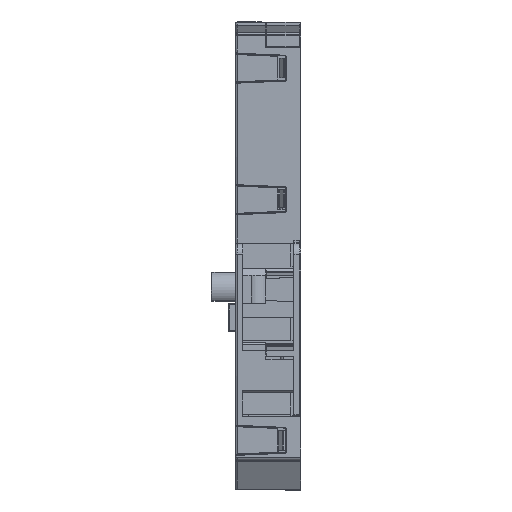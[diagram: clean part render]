
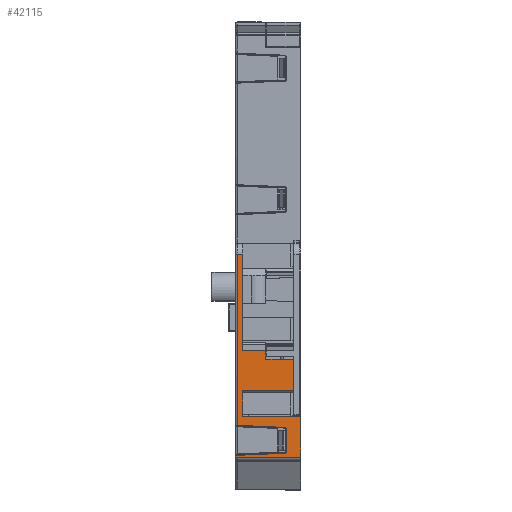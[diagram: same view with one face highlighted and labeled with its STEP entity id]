
A CAD part, front view. The second image highlights one B-rep face of the part: STEP entity #42115.
In plain terms, the highlighted planar face has unit normal (0, -1, 0) as drawn and (-1, 0, 0) by its records, which use the part's own axes.
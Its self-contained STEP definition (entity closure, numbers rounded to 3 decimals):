
#6 = CARTESIAN_POINT ( 'NONE',  ( -40.25, 10.5, 1. ) ) ;
#139 = DIRECTION ( 'NONE',  ( -1., 0., 0. ) ) ;
#368 = CARTESIAN_POINT ( 'NONE',  ( -40.25, 5.446, 7. ) ) ;
#451 = CARTESIAN_POINT ( 'NONE',  ( -40.25, 33.7, 9.3 ) ) ;
#786 = VECTOR ( 'NONE', #46809, 1000. ) ;
#1819 = VERTEX_POINT ( 'NONE', #36128 ) ;
#1921 = VECTOR ( 'NONE', #41950, 1000. ) ;
#2365 = EDGE_CURVE ( 'NONE', #6902, #42385, #11661, .T. ) ;
#3114 = LINE ( 'NONE', #4069, #22433 ) ;
#3443 = CARTESIAN_POINT ( 'NONE',  ( -40.25, 33.7, 9.3 ) ) ;
#3708 = EDGE_CURVE ( 'NONE', #23423, #39307, #10185, .T. ) ;
#4069 = CARTESIAN_POINT ( 'NONE',  ( -40.25, 19.9, 1. ) ) ;
#4418 = DIRECTION ( 'NONE',  ( 0., 0., 1. ) ) ;
#5028 = CARTESIAN_POINT ( 'NONE',  ( -40.25, 33.7, 0.2 ) ) ;
#5709 = EDGE_CURVE ( 'NONE', #25714, #41838, #24201, .T. ) ;
#6028 = CARTESIAN_POINT ( 'NONE',  ( -40.25, 9.242, 0.2 ) ) ;
#6195 = CARTESIAN_POINT ( 'NONE',  ( -40.25, 33.7, 1. ) ) ;
#6529 = ORIENTED_EDGE ( 'NONE', *, *, #11216, .F. ) ;
#6902 = VERTEX_POINT ( 'NONE', #9757 ) ;
#6978 = ORIENTED_EDGE ( 'NONE', *, *, #9014, .F. ) ;
#7106 = ORIENTED_EDGE ( 'NONE', *, *, #18189, .T. ) ;
#7372 = EDGE_CURVE ( 'NONE', #42385, #10054, #33088, .T. ) ;
#8011 = ORIENTED_EDGE ( 'NONE', *, *, #8384, .F. ) ;
#8384 = EDGE_CURVE ( 'NONE', #10054, #37216, #32667, .T. ) ;
#8862 = ORIENTED_EDGE ( 'NONE', *, *, #20882, .F. ) ;
#8902 = VECTOR ( 'NONE', #43666, 1000. ) ;
#8918 = CIRCLE ( 'NONE', #21250, 0.2 ) ;
#9004 = EDGE_CURVE ( 'NONE', #45333, #46824, #31125, .T. ) ;
#9014 = EDGE_CURVE ( 'NONE', #28996, #41838, #15817, .T. ) ;
#9229 = CARTESIAN_POINT ( 'NONE',  ( -40.25, 0., 1. ) ) ;
#9747 = CARTESIAN_POINT ( 'NONE',  ( -40.25, 8.901, 8.252 ) ) ;
#9757 = CARTESIAN_POINT ( 'NONE',  ( -40.25, 14.2, 1. ) ) ;
#9917 = CARTESIAN_POINT ( 'NONE',  ( -40.25, 8.754, 7.2 ) ) ;
#10054 = VERTEX_POINT ( 'NONE', #27269 ) ;
#10096 = VERTEX_POINT ( 'NONE', #16422 ) ;
#10185 = LINE ( 'NONE', #35773, #47598 ) ;
#10648 = LINE ( 'NONE', #14031, #11261 ) ;
#10652 = VERTEX_POINT ( 'NONE', #29355 ) ;
#11216 = EDGE_CURVE ( 'NONE', #23423, #1819, #10648, .T. ) ;
#11261 = VECTOR ( 'NONE', #14512, 1000. ) ;
#11565 = VECTOR ( 'NONE', #41751, 1000. ) ;
#11661 = LINE ( 'NONE', #9229, #25134 ) ;
#12288 = DIRECTION ( 'NONE',  ( 1., 0., 0. ) ) ;
#12508 = CARTESIAN_POINT ( 'NONE',  ( -40.25, 5.246, 7.008 ) ) ;
#12791 = CARTESIAN_POINT ( 'NONE',  ( -40.25, 35.2, 8.3 ) ) ;
#13517 = EDGE_CURVE ( 'NONE', #10096, #17910, #16872, .T. ) ;
#13854 = CARTESIAN_POINT ( 'NONE',  ( -40.25, 4.7, 0.2 ) ) ;
#14031 = CARTESIAN_POINT ( 'NONE',  ( -40.25, 0., 1. ) ) ;
#14237 = DIRECTION ( 'NONE',  ( 0., 0., 1. ) ) ;
#14512 = DIRECTION ( 'NONE',  ( 0., -1., 0. ) ) ;
#14885 = DIRECTION ( 'NONE',  ( 0., 0., -1. ) ) ;
#15220 = CARTESIAN_POINT ( 'NONE',  ( -40.25, 33.7, 7.2 ) ) ;
#15817 = CIRCLE ( 'NONE', #39740, 0.2 ) ;
#15931 = LINE ( 'NONE', #15220, #11565 ) ;
#16422 = CARTESIAN_POINT ( 'NONE',  ( -40.25, 4.958, 0.2 ) ) ;
#16456 = EDGE_LOOP ( 'NONE', ( #46164, #7106, #38927, #8862, #17825, #30200, #6529, #40473, #46635, #18911, #6978, #31439, #27316, #31014, #29549, #37860, #8011, #24953 ) ) ;
#16539 = VECTOR ( 'NONE', #40175, 1000. ) ;
#16872 = LINE ( 'NONE', #22720, #38400 ) ;
#17456 = EDGE_CURVE ( 'NONE', #28996, #34481, #15931, .T. ) ;
#17825 = ORIENTED_EDGE ( 'NONE', *, *, #33986, .F. ) ;
#17910 = VERTEX_POINT ( 'NONE', #13854 ) ;
#18189 = EDGE_CURVE ( 'NONE', #6902, #46824, #37502, .T. ) ;
#18324 = DIRECTION ( 'NONE',  ( 0., 0., -1. ) ) ;
#18911 = ORIENTED_EDGE ( 'NONE', *, *, #5709, .T. ) ;
#19111 = DIRECTION ( 'NONE',  ( 0., -1., 0. ) ) ;
#19539 = DIRECTION ( 'NONE',  ( 0., 0., -1. ) ) ;
#20375 = CARTESIAN_POINT ( 'NONE',  ( -40.25, 4.7, 9.3 ) ) ;
#20882 = EDGE_CURVE ( 'NONE', #35664, #45333, #44854, .T. ) ;
#21098 = EDGE_CURVE ( 'NONE', #35372, #34481, #8918, .T. ) ;
#21250 = AXIS2_PLACEMENT_3D ( 'NONE', #368, #139, #14885 ) ;
#22433 = VECTOR ( 'NONE', #14237, 1000. ) ;
#22720 = CARTESIAN_POINT ( 'NONE',  ( -40.25, 33.7, 0.2 ) ) ;
#23423 = VERTEX_POINT ( 'NONE', #6195 ) ;
#24010 = LINE ( 'NONE', #46229, #43314 ) ;
#24077 = EDGE_CURVE ( 'NONE', #39307, #25714, #29661, .T. ) ;
#24201 = LINE ( 'NONE', #9747, #34307 ) ;
#24585 = LINE ( 'NONE', #35727, #786 ) ;
#24953 = ORIENTED_EDGE ( 'NONE', *, *, #7372, .F. ) ;
#25134 = VECTOR ( 'NONE', #38689, 1000. ) ;
#25362 = DIRECTION ( 'NONE',  ( 0., 0., -1. ) ) ;
#25606 = EDGE_CURVE ( 'NONE', #37216, #17910, #27723, .T. ) ;
#25714 = VERTEX_POINT ( 'NONE', #6028 ) ;
#26824 = CARTESIAN_POINT ( 'NONE',  ( -40.25, 8.954, 7.008 ) ) ;
#27215 = CARTESIAN_POINT ( 'NONE',  ( -40.25, 18.7, 4.3 ) ) ;
#27269 = CARTESIAN_POINT ( 'NONE',  ( -40.25, 10.5, 9.3 ) ) ;
#27316 = ORIENTED_EDGE ( 'NONE', *, *, #21098, .F. ) ;
#27723 = LINE ( 'NONE', #45603, #46874 ) ;
#28183 = CARTESIAN_POINT ( 'NONE',  ( -40.25, 33.7, 0.2 ) ) ;
#28310 = DIRECTION ( 'NONE',  ( 0., -0.042, 0.999 ) ) ;
#28561 = CARTESIAN_POINT ( 'NONE',  ( -40.25, 14.2, 8.3 ) ) ;
#28679 = DIRECTION ( 'NONE',  ( -1., 0., 0. ) ) ;
#28996 = VERTEX_POINT ( 'NONE', #9917 ) ;
#29355 = CARTESIAN_POINT ( 'NONE',  ( -40.25, 19.9, 4.3 ) ) ;
#29440 = DIRECTION ( 'NONE',  ( 0., 0., 1. ) ) ;
#29549 = ORIENTED_EDGE ( 'NONE', *, *, #13517, .T. ) ;
#29661 = LINE ( 'NONE', #28183, #41382 ) ;
#30200 = ORIENTED_EDGE ( 'NONE', *, *, #35164, .F. ) ;
#30349 = VECTOR ( 'NONE', #29440, 1000. ) ;
#30469 = CARTESIAN_POINT ( 'NONE',  ( -40.25, 14.2, 9.3 ) ) ;
#31014 = ORIENTED_EDGE ( 'NONE', *, *, #35873, .T. ) ;
#31125 = LINE ( 'NONE', #12791, #8902 ) ;
#31439 = ORIENTED_EDGE ( 'NONE', *, *, #17456, .T. ) ;
#32667 = LINE ( 'NONE', #3443, #16539 ) ;
#33088 = LINE ( 'NONE', #6, #30349 ) ;
#33536 = PLANE ( 'NONE',  #36702 ) ;
#33986 = EDGE_CURVE ( 'NONE', #10652, #35664, #24585, .T. ) ;
#34259 = DIRECTION ( 'NONE',  ( 0., 1., 0. ) ) ;
#34307 = VECTOR ( 'NONE', #28310, 1000. ) ;
#34481 = VERTEX_POINT ( 'NONE', #44084 ) ;
#35164 = EDGE_CURVE ( 'NONE', #1819, #10652, #3114, .T. ) ;
#35372 = VERTEX_POINT ( 'NONE', #12508 ) ;
#35664 = VERTEX_POINT ( 'NONE', #37828 ) ;
#35727 = CARTESIAN_POINT ( 'NONE',  ( -40.25, 19.9, 4.3 ) ) ;
#35773 = CARTESIAN_POINT ( 'NONE',  ( -40.25, 33.7, 9.3 ) ) ;
#35873 = EDGE_CURVE ( 'NONE', #35372, #10096, #24010, .T. ) ;
#36128 = CARTESIAN_POINT ( 'NONE',  ( -40.25, 19.9, 1. ) ) ;
#36702 = AXIS2_PLACEMENT_3D ( 'NONE', #451, #12288, #34259 ) ;
#37042 = VECTOR ( 'NONE', #4418, 1000. ) ;
#37115 = CARTESIAN_POINT ( 'NONE',  ( -40.25, 10.5, 1. ) ) ;
#37174 = FACE_OUTER_BOUND ( 'NONE', #16456, .T. ) ;
#37216 = VERTEX_POINT ( 'NONE', #20375 ) ;
#37502 = LINE ( 'NONE', #30469, #37042 ) ;
#37828 = CARTESIAN_POINT ( 'NONE',  ( -40.25, 18.7, 4.3 ) ) ;
#37860 = ORIENTED_EDGE ( 'NONE', *, *, #25606, .F. ) ;
#38400 = VECTOR ( 'NONE', #19111, 1000. ) ;
#38689 = DIRECTION ( 'NONE',  ( 0., -1., 0. ) ) ;
#38772 = DIRECTION ( 'NONE',  ( 0., -0.042, -0.999 ) ) ;
#38845 = DIRECTION ( 'NONE',  ( 0., -1., 0. ) ) ;
#38927 = ORIENTED_EDGE ( 'NONE', *, *, #9004, .F. ) ;
#39307 = VERTEX_POINT ( 'NONE', #5028 ) ;
#39740 = AXIS2_PLACEMENT_3D ( 'NONE', #40061, #28679, #18324 ) ;
#40061 = CARTESIAN_POINT ( 'NONE',  ( -40.25, 8.754, 7. ) ) ;
#40175 = DIRECTION ( 'NONE',  ( 0., -1., 0. ) ) ;
#40473 = ORIENTED_EDGE ( 'NONE', *, *, #3708, .T. ) ;
#41382 = VECTOR ( 'NONE', #38845, 1000. ) ;
#41581 = CARTESIAN_POINT ( 'NONE',  ( -40.25, 18.7, 8.3 ) ) ;
#41751 = DIRECTION ( 'NONE',  ( 0., -1., 0. ) ) ;
#41838 = VERTEX_POINT ( 'NONE', #26824 ) ;
#41950 = DIRECTION ( 'NONE',  ( 0., 0., 1. ) ) ;
#42115 = ADVANCED_FACE ( 'NONE', ( #37174 ), #33536, .F. ) ;
#42385 = VERTEX_POINT ( 'NONE', #37115 ) ;
#43314 = VECTOR ( 'NONE', #38772, 1000. ) ;
#43666 = DIRECTION ( 'NONE',  ( 0., -1., 0. ) ) ;
#44084 = CARTESIAN_POINT ( 'NONE',  ( -40.25, 5.446, 7.2 ) ) ;
#44854 = LINE ( 'NONE', #27215, #1921 ) ;
#45333 = VERTEX_POINT ( 'NONE', #41581 ) ;
#45603 = CARTESIAN_POINT ( 'NONE',  ( -40.25, 4.7, 9.3 ) ) ;
#46164 = ORIENTED_EDGE ( 'NONE', *, *, #2365, .F. ) ;
#46229 = CARTESIAN_POINT ( 'NONE',  ( -40.25, 5.393, 10.496 ) ) ;
#46635 = ORIENTED_EDGE ( 'NONE', *, *, #24077, .T. ) ;
#46809 = DIRECTION ( 'NONE',  ( 0., -1., 0. ) ) ;
#46824 = VERTEX_POINT ( 'NONE', #28561 ) ;
#46874 = VECTOR ( 'NONE', #19539, 1000. ) ;
#47598 = VECTOR ( 'NONE', #25362, 1000. ) ;
